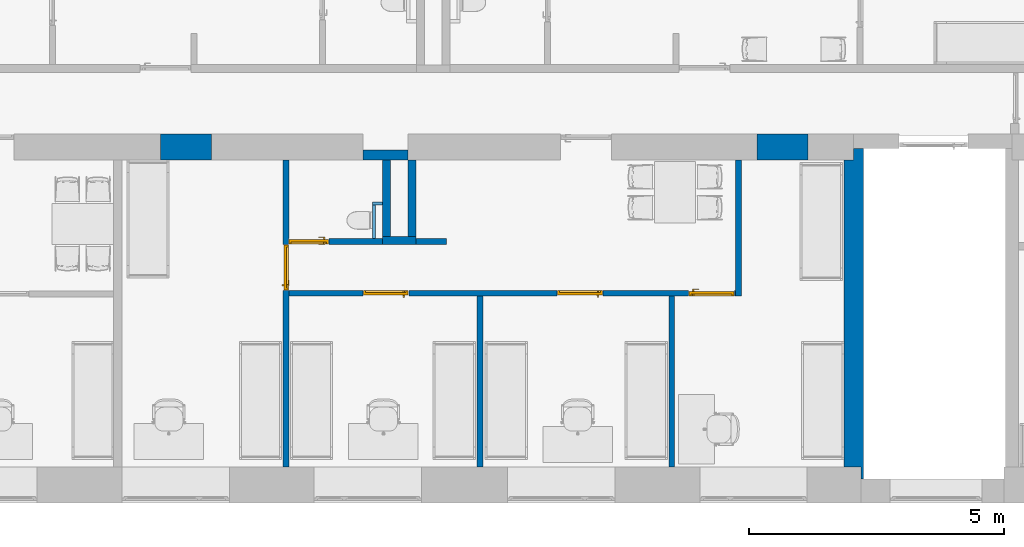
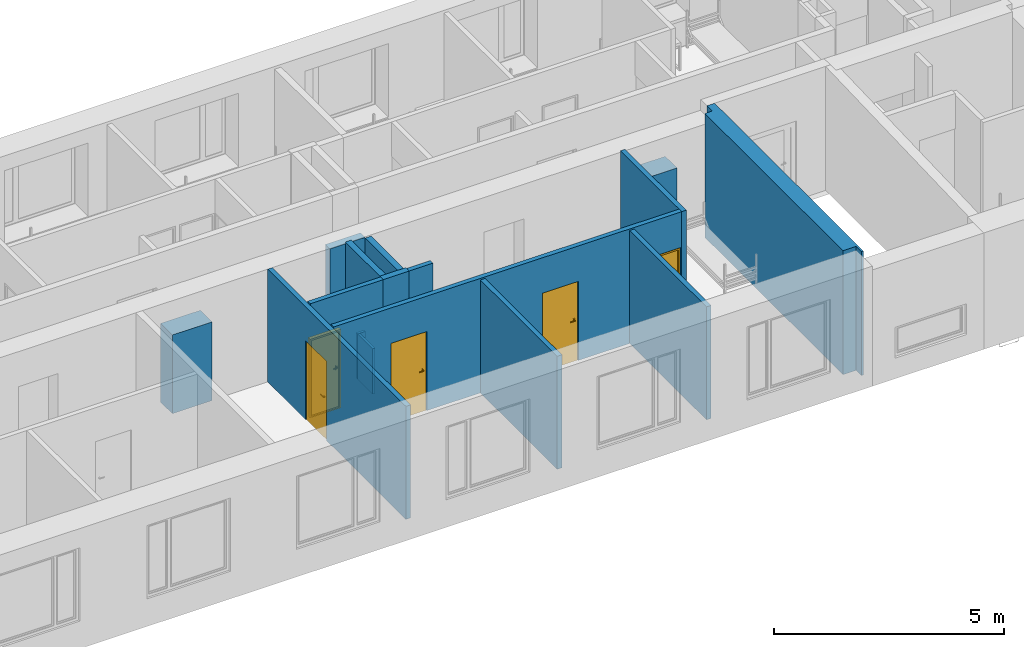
# One storey, part 8 of 46: 16 walls, 5 doors, 6 openings.
"""IFC2X3 building model written with IfcOpenShell, lengths in millimetres."""

from ifc_helpers import new_model, entity, si_unit, converted_unit, derived_unit, direction, frame, frame_2d, origin, place, context, subcontext, project, spatial, polyline, rectangle, outline, extrude, clip, bounded_halfspace, faceted_brep, source, transform, mapped, material, material_list, layer, layer_set, layer_usage, type_object, type_shapes, element, fill, save


model = new_model("IFC2X3")

# Units and contexts
model_context = context("Model", 3, precision=0.01, world=origin(), true_north=direction((6.12303176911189e-17, 1.0)))
body_context = subcontext(model_context, "Body", "Model", "MODEL_VIEW")
ifc_project = project(units=[si_unit("LENGTHUNIT", "METRE", prefix="MILLI"), si_unit("AREAUNIT", "SQUARE_METRE"), si_unit("VOLUMEUNIT", "CUBIC_METRE"), converted_unit("PLANEANGLEUNIT", "DEGREE", entity("IfcRatioMeasure", 0.0174532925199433), si_unit("PLANEANGLEUNIT", "RADIAN"), dimensions=[0, 0, 0, 0, 0, 0, 0]), si_unit("MASSUNIT", "GRAM", prefix="KILO"), derived_unit("MASSDENSITYUNIT", [(si_unit("MASSUNIT", "GRAM", prefix="KILO"), 1), (si_unit("LENGTHUNIT", "METRE"), -3)]), si_unit("TIMEUNIT", "SECOND"), si_unit("FREQUENCYUNIT", "HERTZ"), si_unit("THERMODYNAMICTEMPERATUREUNIT", "DEGREE_CELSIUS"), derived_unit("THERMALTRANSMITTANCEUNIT", [(si_unit("MASSUNIT", "GRAM", prefix="KILO"), 1), (si_unit("THERMODYNAMICTEMPERATUREUNIT", "KELVIN"), -1), (si_unit("TIMEUNIT", "SECOND"), -3)]), derived_unit("VOLUMETRICFLOWRATEUNIT", [(si_unit("LENGTHUNIT", "METRE"), 3), (si_unit("TIMEUNIT", "SECOND"), -1)]), si_unit("ELECTRICCURRENTUNIT", "AMPERE"), si_unit("ELECTRICVOLTAGEUNIT", "VOLT"), si_unit("POWERUNIT", "WATT"), si_unit("FORCEUNIT", "NEWTON", prefix="KILO"), si_unit("ILLUMINANCEUNIT", "LUX"), si_unit("LUMINOUSFLUXUNIT", "LUMEN"), si_unit("LUMINOUSINTENSITYUNIT", "CANDELA"), derived_unit("USERDEFINED", [(si_unit("MASSUNIT", "GRAM", prefix="KILO"), -1), (si_unit("LENGTHUNIT", "METRE"), -2), (si_unit("TIMEUNIT", "SECOND"), 3), (si_unit("LUMINOUSFLUXUNIT", "LUMEN"), 1)]), derived_unit("LINEARVELOCITYUNIT", [(si_unit("LENGTHUNIT", "METRE"), 1), (si_unit("TIMEUNIT", "SECOND"), -1)]), si_unit("PRESSUREUNIT", "PASCAL"), derived_unit("USERDEFINED", [(si_unit("LENGTHUNIT", "METRE"), -2), (si_unit("MASSUNIT", "GRAM", prefix="KILO"), 1), (si_unit("TIMEUNIT", "SECOND"), -2)]), derived_unit("LINEARFORCEUNIT", [(si_unit("MASSUNIT", "GRAM", prefix="KILO"), 1), (si_unit("LENGTHUNIT", "METRE"), 1), (si_unit("TIMEUNIT", "SECOND"), -2), (si_unit("LENGTHUNIT", "METRE"), -1)]), derived_unit("PLANARFORCEUNIT", [(si_unit("MASSUNIT", "GRAM", prefix="KILO"), 1), (si_unit("LENGTHUNIT", "METRE"), 1), (si_unit("TIMEUNIT", "SECOND"), -2), (si_unit("LENGTHUNIT", "METRE"), -2)])], contexts=[model_context])

# Site, building, storey
site_placement = place(None, origin())
site = spatial("IfcSite", under=ifc_project, at=site_placement, Name="Default", CompositionType="ELEMENT")
building_placement = place(site_placement, origin())
building = spatial("IfcBuilding", under=site, at=building_placement, Name="SMA ARH", CompositionType="ELEMENT")
storey_placement = place(building_placement, frame((0.0, 0.0, 9910.0)))
storey = spatial("IfcBuildingStorey", under=building, at=storey_placement, Name="4 Korrus", CompositionType="ELEMENT", Elevation=9909.9999999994)

# Walls
ifc_material_1 = material(Name="EST. Müüritis. Väikeplokk. Kergkruusplokk")
ifc_layer_1 = layer(ifc_material_1, 150.0)
ifc_layer_set_1 = layer_set([ifc_layer_1], Name="Basic Wall:SS-02_ 150mm šahtide vahesein")
ifc_layer_usage_1 = layer_usage(ifc_layer_set_1, "AXIS2", "NEGATIVE", 75.0)
wall_type_1 = type_object("IfcWallType", Name="Basic Wall:SS-02_ 150mm šahtide vahesein", PredefinedType="STANDARD", material=ifc_layer_set_1)
wall_1_placement = place(storey_placement, frame((21495.0, 6010.0, 0.0), z_axis=(0.0, 0.0, 1.0), x_axis=(0.0, -1.0, 0.0)))
element("IfcWallStandardCase", 1, at=wall_1_placement, inside=storey, type_object=wall_type_1, material=ifc_layer_usage_1, Name="Basic Wall:SS-02_ 150mm šahtide vahesein", ObjectType="Basic Wall:SS-02_ 150mm šahtide vahesein", context=body_context, shape_type="SweptSolid", body=[
    extrude(rectangle(XDim=1500.00000000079, YDim=150.000000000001, at=frame_2d((750.000000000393, 0.0), x_axis=(-1.0, 0.0))), origin(), (0.0, 0.0, 1.0), 3041.0500000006),
])
ifc_layer_usage_2 = layer_usage(ifc_layer_set_1, "AXIS2", "NEGATIVE", 75.0)
wall_2_placement = place(storey_placement, frame((21420.0, 4435.0, 0.0)))
element("IfcWallStandardCase", 2, at=wall_2_placement, inside=storey, type_object=wall_type_1, material=ifc_layer_usage_2, Name="Basic Wall:SS-02_ 150mm šahtide vahesein", ObjectType="Basic Wall:SS-02_ 150mm šahtide vahesein", context=body_context, shape_type="SweptSolid", body=[
    extrude(rectangle(XDim=649.999999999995, YDim=150.000000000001, at=frame_2d((324.999999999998, -7.105427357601e-14), x_axis=(-1.0, 0.0))), origin(), (0.0, 0.0, 1.0), 3041.0500000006),
])
ifc_layer_usage_3 = layer_usage(ifc_layer_set_1, "AXIS2", "NEGATIVE", 75.0)
wall_3_placement = place(storey_placement, frame((21995.0, 4510.0, 0.0), z_axis=(0.0, 0.0, 1.0), x_axis=(0.0, 1.0, 0.0)))
element("IfcWallStandardCase", 3, at=wall_3_placement, inside=storey, type_object=wall_type_1, material=ifc_layer_usage_3, Name="Basic Wall:SS-02_ 150mm šahtide vahesein", ObjectType="Basic Wall:SS-02_ 150mm šahtide vahesein", context=body_context, shape_type="SweptSolid", body=[
    extrude(rectangle(XDim=1500.00000000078, YDim=150.000000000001, at=frame_2d((750.000000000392, 5.6843418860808e-14), x_axis=(-1.0, 0.0))), origin(), (0.0, 0.0, 1.0), 2970.0000000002),
])
ifc_material_2 = material(Name="_ol.olev sein")
ifc_layer_2 = layer(ifc_material_2, 380.0)
ifc_layer_set_2 = layer_set([ifc_layer_2], Name="Basic Wall:Generic - 380mm")
ifc_layer_usage_4 = layer_usage(ifc_layer_set_2, "AXIS2", "POSITIVE", -190.0)
wall_type_2 = type_object("IfcWallType", Name="Basic Wall:Generic - 380mm", PredefinedType="STANDARD", material=ifc_layer_set_2)
wall_4_placement = place(storey_placement, frame((30640.0, 6240.0, 0.0), z_axis=(0.0, 0.0, 1.0), x_axis=(0.0, -1.0, 0.0)))
element("IfcWallStandardCase", 4, at=wall_4_placement, inside=storey, type_object=wall_type_2, material=ifc_layer_usage_4, Name="Basic Wall:Generic - 380mm", ObjectType="Basic Wall:Generic - 380mm", context=body_context, shape_type="SweptSolid", body=[
    extrude(outline(polyline([(6240.0, -190.0), (6240.0, 140.599000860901), (6470.0, 140.599000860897), (6470.0, 190.0), (6240.0, 190.0), (235.0, 190.0), (0.0, 190.0), (0.0, 0.0), (230.0, 0.0), (230.0, -190.0), (235.0, -190.0), (6240.0, -190.0)])), origin(), (0.0, 0.0, 1.0), 3290.0000000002),
])
ifc_material_3 = material(Name="EST. Ehitusplaat. Kipsplaat")
ifc_layer_3 = layer(ifc_material_3, 12.5)
ifc_layer_4 = layer(ifc_material_3, 12.5)
ifc_material_4 = material(Name="EST. Soojustus. Mineraalvill. Default")
ifc_layer_5 = layer(ifc_material_4, 66.0)
ifc_layer_6 = layer(ifc_material_3, 12.5)
ifc_layer_7 = layer(ifc_material_3, 12.5)
ifc_layer_set_3 = layer_set([ifc_layer_3, ifc_layer_4, ifc_layer_5, ifc_layer_6, ifc_layer_7], Name="Basic Wall:SS-05_Kips, 66mm metallkarkass")
ifc_layer_usage_5 = layer_usage(ifc_layer_set_3, "AXIS2", "NEGATIVE", 58.0)
wall_type_3 = type_object("IfcWallType", Name="Basic Wall:SS-05_Kips, 66mm metallkarkass", PredefinedType="STANDARD", material=ifc_layer_set_3)
wall_5_placement = place(storey_placement, frame((28388.4550000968, 6010.0, 0.0), z_axis=(0.0, 0.0, 1.0), x_axis=(0.0, -1.0, 0.0)))
element("IfcWallStandardCase", 5, at=wall_5_placement, inside=storey, type_object=wall_type_3, material=ifc_layer_usage_5, Name="Basic Wall:SS-05_Kips, 66mm metallkarkass", ObjectType="Basic Wall:SS-05_Kips, 66mm metallkarkass", context=body_context, shape_type="SweptSolid", body=[
    extrude(rectangle(XDim=2666.00000000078, YDim=116.0, at=frame_2d((1333.00000000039, 8.5265128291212e-14), x_axis=(-1.0, 0.0))), origin(), (0.0, 0.0, 1.0), 3041.0500000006),
])

# Wall, openings, doors
ifc_layer_usage_6 = layer_usage(ifc_layer_set_3, "AXIS2", "NEGATIVE", 58.0)
wall_6_placement = place(storey_placement, frame((19588.0, 3402.0, 0.0)))
wall_6 = element("IfcWallStandardCase", 6, at=wall_6_placement, inside=storey, type_object=wall_type_3, material=ifc_layer_usage_6, Name="Basic Wall:SS-05_Kips, 66mm metallkarkass", ObjectType="Basic Wall:SS-05_Kips, 66mm metallkarkass", context=body_context, shape_type="SweptSolid", body=[
    extrude(rectangle(XDim=8742.4550000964, YDim=116.0, at=frame_2d((4371.2275000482, 1.17239551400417e-13), x_axis=(-1.0, 0.0))), origin(), (0.0, 0.0, 1.0), 3041.0500000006),
])
opening_1_placement = place(wall_6_placement, frame((7815.95500009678, -58.0, 0.0)))
opening_1 = element("IfcOpeningElement", 7, at=opening_1_placement, cuts=wall_6, Name="SMA_D01, 1-poolne:SU-P-05 - 900x2100 TUBA:1", ObjectType="Opening", context=body_context, shape_type="SweptSolid", body=[
    extrude(rectangle(XDim=2099.99999999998, YDim=900.0, at=frame_2d((1049.99999999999, 450.0), x_axis=(1.0, 0.0))), frame((0.0, 0.0, 0.0), z_axis=(0.0, 1.0, 0.0), x_axis=(0.0, 0.0, 1.0)), (0.0, 0.0, 1.0), 116.0),
])
opening_2_placement = place(wall_6_placement, frame((6144.0, 58.0, 0.0)))
opening_2 = element("IfcOpeningElement", 8, at=opening_2_placement, cuts=wall_6, Name="SMA_D01, 1-poolne:SU-P-05 - 900x2100 TUBA:1", ObjectType="Opening", context=body_context, shape_type="SweptSolid", body=[
    extrude(rectangle(XDim=2099.99999999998, YDim=900.0, at=frame_2d((1049.99999999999, 450.0), x_axis=(1.0, 0.0))), frame((0.0, 0.0, 0.0), z_axis=(0.0, -1.0, 0.0), x_axis=(0.0, 0.0, 1.0)), (0.0, 0.0, 1.0), 116.0),
])
opening_3_placement = place(wall_6_placement, frame((2344.0, 58.0, 0.0)))
opening_3 = element("IfcOpeningElement", 9, at=opening_3_placement, cuts=wall_6, Name="SMA_D01, 1-poolne:SU-P-05 - 900x2100 TUBA:1", ObjectType="Opening", context=body_context, shape_type="SweptSolid", body=[
    extrude(rectangle(XDim=2099.99999999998, YDim=900.0, at=frame_2d((1049.99999999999, 450.0), x_axis=(1.0, 0.0))), frame((0.0, 0.0, 0.0), z_axis=(0.0, -1.0, 0.0), x_axis=(0.0, 0.0, 1.0)), (0.0, 0.0, 1.0), 116.0),
])
ifc_material_5 = material(Name="EST. Metall. Alumiinium. Värvitud. RAL7023 (Concrete grey)")
ifc_material_6 = material(Name="<Unnamed>")
ifc_material_7 = material(Name="EST. Klaas. 3x. Default")
ifc_material_list_1 = material_list([ifc_material_6, ifc_material_7, ifc_material_6, ifc_material_5, ifc_material_5, ifc_material_5, ifc_material_6])
door_style_1 = type_object("IfcDoorStyle", Name="SMA_D01, 1-poolne:SU-P-05 - 900x2100 TUBA", ConstructionType="NOTDEFINED", OperationType="SINGLE_SWING_RIGHT", ParameterTakesPrecedence=False, Sizeable=False, material=ifc_material_list_1)
shared_shape_1 = source(origin(), body_context, "Body", "Brep", [
    faceted_brep([(110.0, 6.0, 1112.5), (110.0, 44.0, 1112.5), (85.0, 44.0, 1112.5), (85.0, 1.0, 1112.5), (205.0, 1.0, 1112.5), (205.0, 6.0, 1112.5), (110.0, 6.0, 1087.5), (205.0, 6.0, 1087.5), (205.0, 1.0, 1087.5), (85.0, 1.0, 1087.5), (85.0, 44.0, 1087.5), (110.0, 44.0, 1087.5)], [[[0, 1, 2, 3, 4, 5]], [[6, 7, 8, 9, 10, 11]], [[1, 0, 6, 11]], [[2, 1, 11, 10]], [[3, 2, 10, 9]], [[4, 3, 9, 8]], [[5, 4, 8, 7]], [[0, 5, 7, 6]]]),
    faceted_brep([(122.5, 44.0, 1137.5), (122.5, 46.0, 1137.5), (72.5000000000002, 46.0, 1137.5), (72.5000000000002, 44.0, 1137.5), (122.5, 44.0, 1017.5), (72.5000000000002, 44.0, 1017.5), (72.5000000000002, 46.0, 1017.5), (122.5, 46.0, 1017.5)], [[[0, 1, 2, 3]], [[4, 5, 6, 7]], [[1, 0, 4, 7]], [[2, 1, 7, 6]], [[3, 2, 6, 5]], [[0, 3, 5, 4]]]),
    faceted_brep([(110.0, 136.0, 1112.5), (205.0, 136.0, 1112.5), (205.0, 141.0, 1112.5), (85.0, 141.0, 1112.5), (85.0, 98.0, 1112.5), (110.0, 98.0, 1112.5), (110.0, 136.0, 1087.5), (110.0, 98.0, 1087.5), (85.0, 98.0, 1087.5), (85.0, 141.0, 1087.5), (205.0, 141.0, 1087.5), (205.0, 136.0, 1087.5)], [[[0, 1, 2, 3, 4, 5]], [[6, 7, 8, 9, 10, 11]], [[5, 7, 6, 0]], [[4, 8, 7, 5]], [[3, 9, 8, 4]], [[2, 10, 9, 3]], [[1, 11, 10, 2]], [[0, 6, 11, 1]]]),
    faceted_brep([(122.5, 98.0, 1137.5), (72.5000000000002, 98.0, 1137.5), (72.5000000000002, 96.0, 1137.5), (122.5, 96.0, 1137.5), (122.5, 98.0, 1017.5), (122.5, 96.0, 1017.5), (72.5000000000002, 96.0, 1017.5), (72.5000000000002, 98.0, 1017.5)], [[[0, 1, 2, 3]], [[4, 5, 6, 7]], [[3, 5, 4, 0]], [[2, 6, 5, 3]], [[1, 7, 6, 2]], [[0, 4, 7, 1]]]),
    faceted_brep([(850.0, 6.0, 30.0), (850.0, 6.0, 0.0), (850.0, 46.0, 0.0), (850.0, 46.0, 20.0), (850.0, 46.0, 30.0), (50.0, 6.0, 30.0), (50.0, 46.0, 30.0), (50.0, 46.0, 20.0), (50.0, 46.0, 0.0), (50.0, 6.0, 0.0), (35.0, 46.0, 0.0), (35.0, 96.0, 0.0), (865.0, 96.0, 0.0), (865.0, 46.0, 0.0), (865.0, 96.0, 20.0), (865.0, 46.0, 20.0), (35.0, 96.0, 20.0), (35.0, 46.0, 20.0)], [[[0, 1, 2, 3, 4]], [[5, 6, 7, 8, 9]], [[1, 0, 5, 9]], [[2, 1, 9, 8, 10, 11, 12, 13]], [[6, 4, 3, 7]], [[0, 4, 6, 5]], [[14, 15, 13, 12]], [[16, 11, 10, 17]], [[15, 14, 16, 17, 7, 3]], [[13, 15, 3, 2]], [[14, 12, 11, 16]], [[17, 10, 8, 7]]]),
    faceted_brep([(890.0, 6.0, 0.0), (850.0, 6.0, 0.0), (850.0, 46.0, 0.0), (865.0, 46.0, 0.0), (865.0, 96.0, 0.0), (890.0, 96.0, 0.0), (890.0, 6.0, 2090.0), (10.0, 6.0, 2090.0), (10.0, 6.0, 0.0), (50.0, 6.0, 0.0), (50.0, 6.0, 2050.0), (850.0, 6.0, 2050.0), (850.0, 46.0, 2050.0), (50.0, 46.0, 2050.0), (50.0, 46.0, 0.0), (35.0, 46.0, 0.0), (35.0, 46.0, 2065.0), (865.0, 46.0, 2065.0), (865.0, 96.0, 2065.0), (35.0, 96.0, 2065.0), (35.0, 96.0, 0.0), (10.0, 96.0, 0.0), (10.0, 96.0, 2090.0), (890.0, 96.0, 2090.0)], [[[0, 1, 2, 3, 4, 5]], [[1, 0, 6, 7, 8, 9, 10, 11]], [[2, 1, 11, 12]], [[3, 2, 12, 13, 14, 15, 16, 17]], [[4, 3, 17, 18]], [[5, 4, 18, 19, 20, 21, 22, 23]], [[0, 5, 23, 6]], [[8, 7, 22, 21]], [[9, 8, 21, 20, 15, 14]], [[10, 9, 14, 13]], [[16, 15, 20, 19]], [[11, 10, 13, 12]], [[17, 16, 19, 18]], [[7, 6, 23, 22]]]),
    faceted_brep([(35.0, 46.0, 2065.0), (35.0, 46.0, 20.0), (865.0, 46.0, 20.0), (865.0, 46.0, 2065.0), (35.0, 96.0, 2065.0), (865.0, 96.0, 2065.0), (865.0, 96.0, 20.0), (35.0, 96.0, 20.0)], [[[0, 1, 2, 3]], [[4, 5, 6, 7]], [[1, 0, 4, 7]], [[2, 1, 7, 6]], [[3, 2, 6, 5]], [[0, 3, 5, 4]]]),
])
type_shapes(door_style_1, [shared_shape_1])
door_1_placement = place(opening_3_placement, frame((0.0, 0.0, 0.0), z_axis=(0.0, 0.0, 1.0), x_axis=(-1.0, 0.0, 0.0)))
door_1 = element("IfcDoor", 10, at=door_1_placement, inside=storey, type_object=door_style_1, material=ifc_material_5, Name="SMA_D01, 1-poolne:SU-P-05 - 900x2100 TUBA", ObjectType="SMA_D01, 1-poolne:SU-P-05 - 900x2100 TUBA", OverallHeight=2099.99999999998, OverallWidth=899.999999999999, context=body_context, shape_type="MappedRepresentation", body=[
    mapped(shared_shape_1, transform((0.0, 0.0, 0.0), scale=1.0)),
])
fill(opening_3, door_1)
door_2_placement = place(opening_2_placement, frame((0.0, 0.0, 0.0), z_axis=(0.0, 0.0, 1.0), x_axis=(-1.0, 0.0, 0.0)))
door_2 = element("IfcDoor", 11, at=door_2_placement, inside=storey, type_object=door_style_1, material=ifc_material_5, Name="SMA_D01, 1-poolne:SU-P-05 - 900x2100 TUBA", ObjectType="SMA_D01, 1-poolne:SU-P-05 - 900x2100 TUBA", OverallHeight=2099.99999999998, OverallWidth=900.000000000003, context=body_context, shape_type="MappedRepresentation", body=[
    mapped(shared_shape_1, transform((0.0, 0.0, 0.0), scale=1.0)),
])
fill(opening_2, door_2)
door_3_placement = place(opening_1_placement, origin())
door_3 = element("IfcDoor", 12, at=door_3_placement, inside=storey, type_object=door_style_1, material=ifc_material_5, Name="SMA_D01, 1-poolne:SU-P-05 - 900x2100 TUBA", ObjectType="SMA_D01, 1-poolne:SU-P-05 - 900x2100 TUBA", OverallHeight=2099.99999999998, OverallWidth=900.000000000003, context=body_context, shape_type="MappedRepresentation", body=[
    mapped(shared_shape_1, transform((0.0, 0.0, 0.0), scale=1.0)),
])
fill(opening_1, door_3)

# Wall
ifc_layer_usage_7 = layer_usage(ifc_layer_set_3, "AXIS2", "NEGATIVE", 58.0)
wall_7_placement = place(storey_placement, frame((23330.0, 0.0, 0.0), z_axis=(0.0, 0.0, 1.0), x_axis=(0.0, 1.0, 0.0)))
element("IfcWallStandardCase", 13, at=wall_7_placement, inside=storey, type_object=wall_type_3, material=ifc_layer_usage_7, Name="Basic Wall:SS-05_Kips, 66mm metallkarkass", ObjectType="Basic Wall:SS-05_Kips, 66mm metallkarkass", context=body_context, shape_type="Clipping", body=[
    clip(extrude(rectangle(XDim=3344.00000000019, YDim=116.0, at=frame_2d((1672.0000000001, 1.4210854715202e-14), x_axis=(-1.0, 0.0))), origin(), (0.0, 0.0, 1.0), 3001.0500000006), bounded_halfspace(frame((0.0, -58.0, 3001.0500000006), z_axis=(0.0, 0.0, -1.0), x_axis=(1.0, 0.0, 0.0)), True, frame((0.0, -58.0, 3001.0500000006)), polyline([(0.0, 0.0), (3344.0, 0.0), (3344.0, 116.0), (0.0, 116.0), (0.0, 0.0)]))),
])

# Wall, openings, door
ifc_layer_usage_8 = layer_usage(ifc_layer_set_3, "AXIS2", "NEGATIVE", 58.0)
wall_8_placement = place(storey_placement, frame((19530.0, 0.0, 0.0), z_axis=(0.0, 0.0, 1.0), x_axis=(0.0, 1.0, 0.0)))
wall_8 = element("IfcWallStandardCase", 14, at=wall_8_placement, inside=storey, type_object=wall_type_3, material=ifc_layer_usage_8, Name="Basic Wall:SS-05_Kips, 66mm metallkarkass", ObjectType="Basic Wall:SS-05_Kips, 66mm metallkarkass", context=body_context, shape_type="Clipping", body=[
    clip(extrude(rectangle(XDim=6010.00000000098, YDim=115.999999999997, at=frame_2d((3005.00000000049, -5.08038056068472e-13), x_axis=(-1.0, 0.0))), origin(), (0.0, 0.0, 1.0), 3001.0500000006), bounded_halfspace(frame((0.0, -58.0, 3001.0500000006), z_axis=(0.0, 0.0, -1.0), x_axis=(1.0, 0.0, 0.0)), True, frame((0.0, -58.0, 3001.0500000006)), polyline([(0.0, 0.0), (6010.0, 0.0), (6010.0, 116.0), (0.0, 116.0), (0.0, 0.0)]))),
])
opening_4_placement = place(wall_8_placement, origin())
element("IfcOpeningElement", 15, at=opening_4_placement, cuts=wall_8, Name="Basic Wall:SS-05_Kips, 66mm metallkarkass", ObjectType="Opening", context=body_context, shape_type="SweptSolid", body=[
    extrude(rectangle(XDim=2099.99999999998, YDim=116.0, at=frame_2d((2.70006239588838e-13, -1.02318153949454e-12), x_axis=(0.0, 1.0))), frame((4418.0, -845.499999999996, 1050.0), z_axis=(0.0, 1.0, 0.0), x_axis=(-1.0, 0.0, 0.0)), (0.0, 0.0, 1.0), 800.0),
])
opening_5_placement = place(wall_8_placement, frame((3460.0, -58.0, 0.0)))
opening_5 = element("IfcOpeningElement", 16, at=opening_5_placement, cuts=wall_8, Name="SMA_D01, 1-poolne:SU-P-05 - 900x2100 TUBA:1", ObjectType="Opening", context=body_context, shape_type="SweptSolid", body=[
    extrude(rectangle(XDim=2099.99999999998, YDim=900.0, at=frame_2d((1049.99999999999, 450.0), x_axis=(1.0, 0.0))), frame((0.0, 0.0, 0.0), z_axis=(0.0, 1.0, 0.0), x_axis=(0.0, 0.0, 1.0)), (0.0, 0.0, 1.0), 116.0),
])
door_4_placement = place(opening_5_placement, origin())
door_4 = element("IfcDoor", 17, at=door_4_placement, inside=storey, type_object=door_style_1, material=ifc_material_5, Name="SMA_D01, 1-poolne:SU-P-05 - 900x2100 TUBA", ObjectType="SMA_D01, 1-poolne:SU-P-05 - 900x2100 TUBA", OverallHeight=2099.99999999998, OverallWidth=900.0, context=body_context, shape_type="MappedRepresentation", body=[
    mapped(shared_shape_1, transform((0.0, 0.0, 0.0), scale=1.0)),
])
fill(opening_5, door_4)

# Walls
ifc_layer_usage_9 = layer_usage(ifc_layer_set_3, "AXIS2", "POSITIVE", -58.0)
wall_9_placement = place(storey_placement, frame((27078.5000000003, 0.0, 0.0), z_axis=(0.0, 0.0, 1.0), x_axis=(0.0, 1.0, 0.0)))
element("IfcWallStandardCase", 18, at=wall_9_placement, inside=storey, type_object=wall_type_3, material=ifc_layer_usage_9, Name="Basic Wall:SS-05_Kips, 66mm metallkarkass", ObjectType="Basic Wall:SS-05_Kips, 66mm metallkarkass", context=body_context, shape_type="Clipping", body=[
    clip(extrude(rectangle(XDim=3344.00000000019, YDim=116.0, at=frame_2d((1672.0000000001, -1.06581410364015e-14), x_axis=(-1.0, 0.0))), origin(), (0.0, 0.0, 1.0), 3001.0500000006), bounded_halfspace(frame((0.0, -58.0, 3001.0500000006), z_axis=(0.0, 0.0, -1.0), x_axis=(1.0, 0.0, 0.0)), True, frame((0.0, -58.0, 3001.0500000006)), polyline([(0.0, 0.0), (3344.0, 0.0), (3344.0, 116.0), (0.0, 116.0), (0.0, 0.0)]))),
])
ifc_layer_8 = layer(ifc_material_3, 12.5)
ifc_layer_9 = layer(ifc_material_3, 12.5)
ifc_material_8 = material(Name="EST. Õhkvahe. Roov. Kipsplaadi alusroov. Vertikaalne")
ifc_layer_10 = layer(ifc_material_8, 66.0)
ifc_layer_11 = layer(ifc_material_3, 12.5)
ifc_layer_12 = layer(ifc_material_3, 12.5)
ifc_layer_set_4 = layer_set([ifc_layer_8, ifc_layer_9, ifc_layer_10, ifc_layer_11, ifc_layer_12], Name="Basic Wall:SS-03_Kips, 66mm metallkarkass")
ifc_layer_usage_10 = layer_usage(ifc_layer_set_4, "AXIS2", "NEGATIVE", 58.0)
wall_type_4 = type_object("IfcWallType", Name="Basic Wall:SS-03_Kips, 66mm metallkarkass", PredefinedType="STANDARD", material=ifc_layer_set_4)
wall_10_placement = place(storey_placement, frame((21995.0, 4418.0, 0.0)))
element("IfcWallStandardCase", 19, at=wall_10_placement, inside=storey, type_object=wall_type_4, material=ifc_layer_usage_10, Name="Basic Wall:SS-03_Kips, 66mm metallkarkass", ObjectType="Basic Wall:SS-03_Kips, 66mm metallkarkass", context=body_context, shape_type="SweptSolid", body=[
    extrude(rectangle(XDim=600.000000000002, YDim=116.0, at=frame_2d((375.000000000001, -5.40012479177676e-13), x_axis=(-1.0, 0.0))), origin(), (0.0, 0.0, 1.0), 3041.0500000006),
])

# Wall, opening, door
ifc_layer_usage_11 = layer_usage(ifc_layer_set_4, "AXIS2", "NEGATIVE", 58.0)
wall_11_placement = place(storey_placement, frame((21420.0, 4418.0, 0.0), z_axis=(0.0, 0.0, 1.0), x_axis=(-1.0, 0.0, 0.0)))
wall_11 = element("IfcWallStandardCase", 20, at=wall_11_placement, inside=storey, type_object=wall_type_4, material=ifc_layer_usage_11, Name="Basic Wall:SS-03_Kips, 66mm metallkarkass", ObjectType="Basic Wall:SS-03_Kips, 66mm metallkarkass", context=body_context, shape_type="SweptSolid", body=[
    extrude(rectangle(XDim=1831.99999999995, YDim=116.0, at=frame_2d((915.999999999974, 1.17239551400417e-13), x_axis=(-1.0, 0.0))), origin(), (0.0, 0.0, 1.0), 3041.0500000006),
])
opening_6_placement = place(wall_11_placement, frame((1844.49999999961, 58.0, 0.0)))
opening_6 = element("IfcOpeningElement", 21, at=opening_6_placement, cuts=wall_11, Name="SMA_D01, 1-poolne:SU-P-06 - 800x2100 DUŠŠ:1", ObjectType="Opening", context=body_context, shape_type="SweptSolid", body=[
    extrude(rectangle(XDim=2099.99999999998, YDim=800.0, at=frame_2d((1049.99999999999, 400.0), x_axis=(1.0, 0.0))), frame((0.0, 0.0, 0.0), z_axis=(0.0, -1.0, 0.0), x_axis=(0.0, 0.0, 1.0)), (0.0, 0.0, 1.0), 116.0),
])
ifc_material_list_2 = material_list([ifc_material_7, ifc_material_5, ifc_material_6, ifc_material_5, ifc_material_6, ifc_material_5, ifc_material_6])
door_style_2 = type_object("IfcDoorStyle", Name="SMA_D01, 1-poolne:SU-P-06 - 800x2100 DUŠŠ", ConstructionType="NOTDEFINED", OperationType="SINGLE_SWING_LEFT", ParameterTakesPrecedence=False, Sizeable=False, material=ifc_material_list_2)
shared_shape_2 = source(origin(), body_context, "Body", "Brep", [
    faceted_brep([(690.0, 6.0, 1112.5), (595.0, 6.0, 1112.5), (595.0, 1.0, 1112.5), (715.0, 1.0, 1112.5), (715.0, 44.0, 1112.5), (690.0, 44.0, 1112.5), (690.0, 6.0, 1087.5), (690.0, 44.0, 1087.5), (715.0, 44.0, 1087.5), (715.0, 1.0, 1087.5), (595.0, 1.0, 1087.5), (595.0, 6.0, 1087.5)], [[[0, 1, 2, 3, 4, 5]], [[6, 7, 8, 9, 10, 11]], [[5, 7, 6, 0]], [[4, 8, 7, 5]], [[3, 9, 8, 4]], [[2, 10, 9, 3]], [[1, 11, 10, 2]], [[0, 6, 11, 1]]]),
    faceted_brep([(677.500000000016, 44.0, 1137.5), (727.500000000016, 44.0, 1137.5), (727.500000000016, 46.0, 1137.5), (677.500000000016, 46.0, 1137.5), (677.500000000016, 44.0, 1017.5), (677.500000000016, 46.0, 1017.5), (727.500000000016, 46.0, 1017.5), (727.500000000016, 44.0, 1017.5)], [[[0, 1, 2, 3]], [[4, 5, 6, 7]], [[3, 5, 4, 0]], [[2, 6, 5, 3]], [[1, 7, 6, 2]], [[0, 4, 7, 1]]]),
    faceted_brep([(690.0, 136.0, 1112.5), (690.0, 98.0, 1112.5), (715.0, 98.0, 1112.5), (715.0, 141.0, 1112.5), (595.0, 141.0, 1112.5), (595.0, 136.0, 1112.5), (690.0, 136.0, 1087.5), (595.0, 136.0, 1087.5), (595.0, 141.0, 1087.5), (715.0, 141.0, 1087.5), (715.0, 98.0, 1087.5), (690.0, 98.0, 1087.5)], [[[0, 1, 2, 3, 4, 5]], [[6, 7, 8, 9, 10, 11]], [[1, 0, 6, 11]], [[2, 1, 11, 10]], [[3, 2, 10, 9]], [[4, 3, 9, 8]], [[5, 4, 8, 7]], [[0, 5, 7, 6]]]),
    faceted_brep([(677.500000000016, 98.0, 1137.5), (677.500000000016, 96.0, 1137.5), (727.500000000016, 96.0, 1137.5), (727.500000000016, 98.0, 1137.5), (677.500000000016, 98.0, 1017.5), (727.500000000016, 98.0, 1017.5), (727.500000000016, 96.0, 1017.5), (677.500000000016, 96.0, 1017.5)], [[[0, 1, 2, 3]], [[4, 5, 6, 7]], [[1, 0, 4, 7]], [[2, 1, 7, 6]], [[3, 2, 6, 5]], [[0, 3, 5, 4]]]),
    faceted_brep([(50.0, 6.0, 30.0), (50.0, 46.0, 30.0), (50.0, 46.0, 20.0), (50.0, 46.0, 0.0), (50.0, 6.0, 0.0), (750.0, 6.0, 30.0), (750.0, 6.0, 0.0), (750.0, 46.0, 0.0), (750.0, 46.0, 20.0), (750.0, 46.0, 30.0), (35.0, 46.0, 0.0), (35.0, 96.0, 0.0), (765.0, 96.0, 0.0), (765.0, 46.0, 0.0), (35.0, 96.0, 20.0), (35.0, 46.0, 20.0), (765.0, 96.0, 20.0), (765.0, 46.0, 20.0)], [[[0, 1, 2, 3, 4]], [[5, 6, 7, 8, 9]], [[4, 6, 5, 0]], [[3, 10, 11, 12, 13, 7, 6, 4]], [[9, 8, 2, 1]], [[0, 5, 9, 1]], [[14, 11, 10, 15]], [[16, 17, 13, 12]], [[15, 2, 8, 17, 16, 14]], [[10, 3, 2, 15]], [[14, 16, 12, 11]], [[17, 8, 7, 13]]]),
    faceted_brep([(10.0, 6.0, 0.0), (10.0, 96.0, 0.0), (35.0, 96.0, 0.0), (35.0, 46.0, 0.0), (50.0, 46.0, 0.0), (50.0, 6.0, 0.0), (50.0, 6.0, 2050.0), (750.0, 6.0, 2050.0), (750.0, 6.0, 0.0), (790.0, 6.0, 0.0), (790.0, 6.0, 2090.0), (10.0, 6.0, 2090.0), (50.0, 46.0, 2050.0), (35.0, 46.0, 2065.0), (765.0, 46.0, 2065.0), (765.0, 46.0, 0.0), (750.0, 46.0, 0.0), (750.0, 46.0, 2050.0), (35.0, 96.0, 2065.0), (10.0, 96.0, 2090.0), (790.0, 96.0, 2090.0), (790.0, 96.0, 0.0), (765.0, 96.0, 0.0), (765.0, 96.0, 2065.0)], [[[0, 1, 2, 3, 4, 5]], [[5, 6, 7, 8, 9, 10, 11, 0]], [[4, 12, 6, 5]], [[3, 13, 14, 15, 16, 17, 12, 4]], [[2, 18, 13, 3]], [[1, 19, 20, 21, 22, 23, 18, 2]], [[0, 11, 19, 1]], [[9, 21, 20, 10]], [[8, 16, 15, 22, 21, 9]], [[7, 17, 16, 8]], [[14, 23, 22, 15]], [[6, 12, 17, 7]], [[13, 18, 23, 14]], [[10, 20, 19, 11]]]),
    faceted_brep([(765.0, 46.0, 2065.0), (35.0, 46.0, 2065.0), (35.0, 46.0, 20.0), (765.0, 46.0, 20.0), (765.0, 96.0, 2065.0), (765.0, 96.0, 20.0), (35.0, 96.0, 20.0), (35.0, 96.0, 2065.0)], [[[0, 1, 2, 3]], [[4, 5, 6, 7]], [[3, 5, 4, 0]], [[2, 6, 5, 3]], [[1, 7, 6, 2]], [[0, 4, 7, 1]]]),
])
type_shapes(door_style_2, [shared_shape_2])
door_5_placement = place(opening_6_placement, frame((0.0, 0.0, 0.0), z_axis=(0.0, 0.0, 1.0), x_axis=(-1.0, 0.0, 0.0)))
door_5 = element("IfcDoor", 22, at=door_5_placement, inside=storey, type_object=door_style_2, material=ifc_material_5, Name="SMA_D01, 1-poolne:SU-P-06 - 800x2100 DUŠŠ", ObjectType="SMA_D01, 1-poolne:SU-P-06 - 800x2100 DUŠŠ", OverallHeight=2099.99999999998, OverallWidth=800.0, context=body_context, shape_type="MappedRepresentation", body=[
    mapped(shared_shape_2, transform((0.0, 0.0, 0.0), scale=1.0)),
])
fill(opening_6, door_5)

# Walls
ifc_material_9 = material(Name="EST. Põrand. Plaatkate")
ifc_layer_13 = layer(ifc_material_9, 10.0)
ifc_layer_14 = layer(ifc_material_3, 12.5)
ifc_layer_15 = layer(ifc_material_8, 42.0)
ifc_layer_set_5 = layer_set([ifc_layer_13, ifc_layer_14, ifc_layer_15], Name="Basic Wall:SS-04 - loputuskast")
ifc_layer_usage_12 = layer_usage(ifc_layer_set_5, "AXIS2", "NEGATIVE", 32.25)
wall_type_5 = type_object("IfcWallType", Name="Basic Wall:SS-04 - loputuskast", PredefinedType="STANDARD", material=ifc_layer_set_5)
wall_12_placement = place(storey_placement, frame((21252.2500000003, 4476.0, 0.0), z_axis=(0.0, 0.0, 1.0), x_axis=(0.0, 1.0, 0.0)))
element("IfcWallStandardCase", 23, at=wall_12_placement, inside=storey, type_object=wall_type_5, material=ifc_layer_usage_12, Name="Basic Wall:SS-04 - loputuskast", ObjectType="Basic Wall:SS-04 - loputuskast", context=body_context, shape_type="SweptSolid", body=[
    extrude(rectangle(XDim=652.500000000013, YDim=64.5000000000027, at=frame_2d((326.250000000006, 0.0), x_axis=(-1.0, 0.0))), origin(), (0.0, 0.0, 1.0), 1200.0),
])
ifc_layer_usage_13 = layer_usage(ifc_layer_set_5, "AXIS2", "NEGATIVE", 32.25)
wall_13_placement = place(storey_placement, frame((21220.0, 5160.74999999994, 0.0)))
element("IfcWallStandardCase", 24, at=wall_13_placement, inside=storey, type_object=wall_type_5, material=ifc_layer_usage_13, Name="Basic Wall:SS-04 - loputuskast", ObjectType="Basic Wall:SS-04 - loputuskast", context=body_context, shape_type="SweptSolid", body=[
    extrude(rectangle(XDim=199.999999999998, YDim=64.5000000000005, at=frame_2d((99.9999999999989, 0.0), x_axis=(-1.0, 0.0))), origin(), (0.0, 0.0, 1.0), 1200.0),
])
ifc_layer_16 = layer(ifc_material_1, 200.0)
ifc_layer_set_6 = layer_set([ifc_layer_16], Name="Basic Wall:SS-00_Fibo 200mm")
ifc_layer_usage_14 = layer_usage(ifc_layer_set_6, "AXIS2", "NEGATIVE", 100.0)
wall_type_6 = type_object("IfcWallType", Name="Basic Wall:SS-00_Fibo 200mm", PredefinedType="STANDARD", material=ifc_layer_set_6)
wall_14_placement = place(storey_placement, frame((21034.0, 6110.0, 0.0)))
element("IfcWallStandardCase", 25, at=wall_14_placement, inside=storey, type_object=wall_type_6, material=ifc_layer_usage_14, Name="Basic Wall:SS-00_Fibo 200mm", ObjectType="Basic Wall:SS-00_Fibo 200mm", context=body_context, shape_type="SweptSolid", body=[
    extrude(rectangle(XDim=886.000000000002, YDim=200.0, at=frame_2d((443.000000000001, 0.0), x_axis=(-1.0, 0.0))), origin(), (0.0, 0.0, 1.0), 2990.0000000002),
])
ifc_layer_17 = layer(ifc_material_1, 510.0)
ifc_layer_set_7 = layer_set([ifc_layer_17], Name="Basic Wall:SS-03_Fibo 510mm kinnilaotav ava")
ifc_layer_usage_15 = layer_usage(ifc_layer_set_7, "AXIS2", "NEGATIVE", 255.0)
wall_type_7 = type_object("IfcWallType", Name="Basic Wall:SS-03_Fibo 510mm kinnilaotav ava", PredefinedType="STANDARD", material=ifc_layer_set_7)
wall_15_placement = place(storey_placement, frame((17075.0, 6265.0, 0.0)))
element("IfcWallStandardCase", 26, at=wall_15_placement, inside=storey, type_object=wall_type_7, material=ifc_layer_usage_15, Name="Basic Wall:SS-03_Fibo 510mm kinnilaotav ava", ObjectType="Basic Wall:SS-03_Fibo 510mm kinnilaotav ava", context=body_context, shape_type="SweptSolid", body=[
    extrude(rectangle(XDim=1000.0, YDim=510.000000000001, at=frame_2d((500.0, 0.0), x_axis=(-1.0, 0.0))), origin(), (0.0, 0.0, 1.0), 2090.00000000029),
])
ifc_layer_usage_16 = layer_usage(ifc_layer_set_7, "AXIS2", "NEGATIVE", 255.0)
wall_16_placement = place(storey_placement, frame((28750.0, 6265.0, 0.0)))
element("IfcWallStandardCase", 27, at=wall_16_placement, inside=storey, type_object=wall_type_7, material=ifc_layer_usage_16, Name="Basic Wall:SS-03_Fibo 510mm kinnilaotav ava", ObjectType="Basic Wall:SS-03_Fibo 510mm kinnilaotav ava", context=body_context, shape_type="SweptSolid", body=[
    extrude(rectangle(XDim=999.999999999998, YDim=510.000000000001, at=frame_2d((499.999999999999, 0.0), x_axis=(-1.0, 0.0))), origin(), (0.0, 0.0, 1.0), 2090.00000000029),
])

save(model, "model.ifc")
